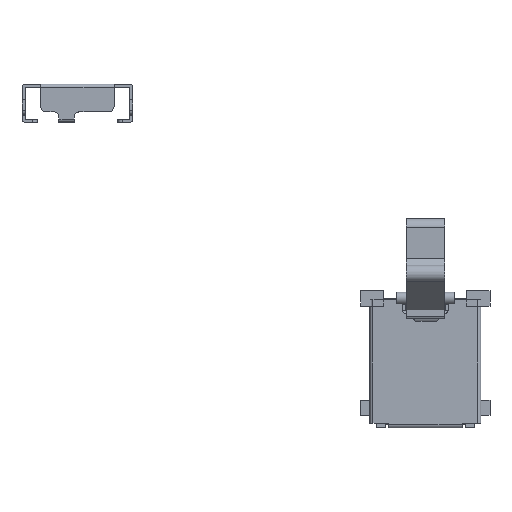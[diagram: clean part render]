
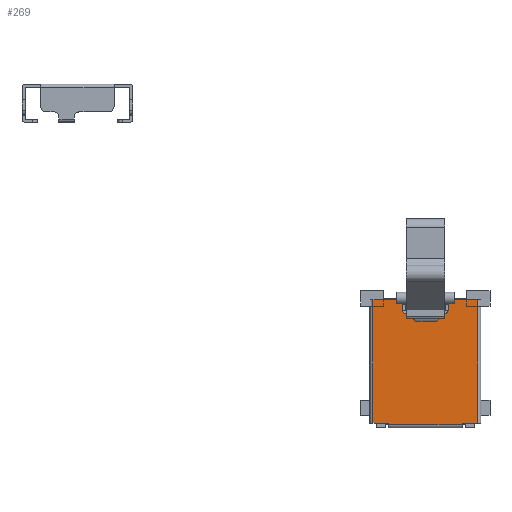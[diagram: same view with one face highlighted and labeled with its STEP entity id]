
A CAD part, top view. The second image highlights one B-rep face of the part: STEP entity #269.
In plain terms, the highlighted planar face has unit normal (0, 0, 1) as drawn and (0, 1, 0) by its records, which use the part's own axes.
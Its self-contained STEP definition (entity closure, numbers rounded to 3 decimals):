
#269 = ADVANCED_FACE( '', ( #663 ), #664, .F. );
#663 = FACE_OUTER_BOUND( '', #1220, .T. );
#664 = PLANE( '', #1221 );
#1220 = EDGE_LOOP( '', ( #1864, #1865, #1866, #1867, #1868, #1869, #1870, #1871, #1872, #1873, #1874, #1875, #1876, #1877, #1878, #1879, #1880, #1881, #1882, #1883 ) );
#1221 = AXIS2_PLACEMENT_3D( '', #1884, #1885, #1886 );
#1864 = ORIENTED_EDGE( '', *, *, #3433, .T. );
#1865 = ORIENTED_EDGE( '', *, *, #3434, .F. );
#1866 = ORIENTED_EDGE( '', *, *, #3435, .T. );
#1867 = ORIENTED_EDGE( '', *, *, #3436, .F. );
#1868 = ORIENTED_EDGE( '', *, *, #3437, .F. );
#1869 = ORIENTED_EDGE( '', *, *, #3438, .T. );
#1870 = ORIENTED_EDGE( '', *, *, #3439, .F. );
#1871 = ORIENTED_EDGE( '', *, *, #3440, .T. );
#1872 = ORIENTED_EDGE( '', *, *, #3441, .F. );
#1873 = ORIENTED_EDGE( '', *, *, #3442, .F. );
#1874 = ORIENTED_EDGE( '', *, *, #3443, .T. );
#1875 = ORIENTED_EDGE( '', *, *, #3444, .F. );
#1876 = ORIENTED_EDGE( '', *, *, #3445, .T. );
#1877 = ORIENTED_EDGE( '', *, *, #3446, .T. );
#1878 = ORIENTED_EDGE( '', *, *, #3447, .F. );
#1879 = ORIENTED_EDGE( '', *, *, #3448, .F. );
#1880 = ORIENTED_EDGE( '', *, *, #3449, .T. );
#1881 = ORIENTED_EDGE( '', *, *, #3450, .T. );
#1882 = ORIENTED_EDGE( '', *, *, #3451, .F. );
#1883 = ORIENTED_EDGE( '', *, *, #3452, .T. );
#1884 = CARTESIAN_POINT( '', ( -9.5, 6.948, 4. ) );
#1885 = DIRECTION( '', ( 0., -1., 0. ) );
#1886 = DIRECTION( '', ( 1., 0., 0. ) );
#3433 = EDGE_CURVE( '', #4153, #4154, #4155, .T. );
#3434 = EDGE_CURVE( '', #4156, #4154, #4157, .T. );
#3435 = EDGE_CURVE( '', #4156, #4158, #4159, .T. );
#3436 = EDGE_CURVE( '', #4160, #4158, #4161, .T. );
#3437 = EDGE_CURVE( '', #4162, #4160, #4163, .T. );
#3438 = EDGE_CURVE( '', #4162, #4164, #4165, .T. );
#3439 = EDGE_CURVE( '', #4166, #4164, #4167, .T. );
#3440 = EDGE_CURVE( '', #4166, #4168, #4169, .T. );
#3441 = EDGE_CURVE( '', #4170, #4168, #4171, .T. );
#3442 = EDGE_CURVE( '', #4172, #4170, #4173, .T. );
#3443 = EDGE_CURVE( '', #4172, #4174, #4175, .T. );
#3444 = EDGE_CURVE( '', #4176, #4174, #4177, .T. );
#3445 = EDGE_CURVE( '', #4176, #4178, #4179, .T. );
#3446 = EDGE_CURVE( '', #4178, #4180, #4181, .F. );
#3447 = EDGE_CURVE( '', #4182, #4180, #4183, .T. );
#3448 = EDGE_CURVE( '', #4184, #4182, #4185, .T. );
#3449 = EDGE_CURVE( '', #4184, #4186, #4187, .T. );
#3450 = EDGE_CURVE( '', #4186, #4188, #4189, .T. );
#3451 = EDGE_CURVE( '', #4190, #4188, #4191, .T. );
#3452 = EDGE_CURVE( '', #4190, #4153, #4192, .T. );
#4153 = VERTEX_POINT( '', #5233 );
#4154 = VERTEX_POINT( '', #5234 );
#4155 = LINE( '', #5235, #5236 );
#4156 = VERTEX_POINT( '', #5237 );
#4157 = LINE( '', #5238, #5239 );
#4158 = VERTEX_POINT( '', #5240 );
#4159 = CIRCLE( '', #5241, 0.15 );
#4160 = VERTEX_POINT( '', #5242 );
#4161 = LINE( '', #5243, #5244 );
#4162 = VERTEX_POINT( '', #5245 );
#4163 = LINE( '', #5246, #5247 );
#4164 = VERTEX_POINT( '', #5248 );
#4165 = CIRCLE( '', #5249, 0.1 );
#4166 = VERTEX_POINT( '', #5250 );
#4167 = LINE( '', #5251, #5252 );
#4168 = VERTEX_POINT( '', #5253 );
#4169 = CIRCLE( '', #5254, 0.1 );
#4170 = VERTEX_POINT( '', #5255 );
#4171 = LINE( '', #5256, #5257 );
#4172 = VERTEX_POINT( '', #5258 );
#4173 = LINE( '', #5259, #5260 );
#4174 = VERTEX_POINT( '', #5261 );
#4175 = CIRCLE( '', #5262, 0.15 );
#4176 = VERTEX_POINT( '', #5263 );
#4177 = LINE( '', #5264, #5265 );
#4178 = VERTEX_POINT( '', #5266 );
#4179 = LINE( '', #5267, #5268 );
#4180 = VERTEX_POINT( '', #5269 );
#4181 = LINE( '', #5270, #5271 );
#4182 = VERTEX_POINT( '', #5272 );
#4183 = LINE( '', #5273, #5274 );
#4184 = VERTEX_POINT( '', #5275 );
#4185 = LINE( '', #5276, #5277 );
#4186 = VERTEX_POINT( '', #5278 );
#4187 = LINE( '', #5279, #5280 );
#4188 = VERTEX_POINT( '', #5281 );
#4189 = LINE( '', #5282, #5283 );
#4190 = VERTEX_POINT( '', #5284 );
#4191 = LINE( '', #5285, #5286 );
#4192 = LINE( '', #5287, #5288 );
#5233 = CARTESIAN_POINT( '', ( -9.6, 6.948, 0. ) );
#5234 = CARTESIAN_POINT( '', ( -10.55, 6.948, 0. ) );
#5235 = CARTESIAN_POINT( '', ( -9.5, 6.948, 0. ) );
#5236 = VECTOR( '', #6455, 1000. );
#5237 = CARTESIAN_POINT( '', ( -10.55, 6.948, 0.3 ) );
#5238 = CARTESIAN_POINT( '', ( -10.55, 6.948, 0.45 ) );
#5239 = VECTOR( '', #6456, 1000. );
#5240 = CARTESIAN_POINT( '', ( -10.7, 6.948, 0.45 ) );
#5241 = AXIS2_PLACEMENT_3D( '', #6457, #6458, #6459 );
#5242 = CARTESIAN_POINT( '', ( -10.875, 6.948, 0.45 ) );
#5243 = CARTESIAN_POINT( '', ( -10.875, 6.948, 0.45 ) );
#5244 = VECTOR( '', #6460, 1000. );
#5245 = CARTESIAN_POINT( '', ( -10.875, 6.948, 0.6 ) );
#5246 = CARTESIAN_POINT( '', ( -10.875, 6.948, 0.7 ) );
#5247 = VECTOR( '', #6461, 1000. );
#5248 = CARTESIAN_POINT( '', ( -10.975, 6.948, 0.7 ) );
#5249 = AXIS2_PLACEMENT_3D( '', #6462, #6463, #6464 );
#5250 = CARTESIAN_POINT( '', ( -11.575, 6.948, 0.7 ) );
#5251 = CARTESIAN_POINT( '', ( -11.675, 6.948, 0.7 ) );
#5252 = VECTOR( '', #6465, 1000. );
#5253 = CARTESIAN_POINT( '', ( -11.675, 6.948, 0.6 ) );
#5254 = AXIS2_PLACEMENT_3D( '', #6466, #6467, #6468 );
#5255 = CARTESIAN_POINT( '', ( -11.675, 6.948, 0.45 ) );
#5256 = CARTESIAN_POINT( '', ( -11.675, 6.948, 0.45 ) );
#5257 = VECTOR( '', #6469, 1000. );
#5258 = CARTESIAN_POINT( '', ( -11.9, 6.948, 0.45 ) );
#5259 = CARTESIAN_POINT( '', ( -12.05, 6.948, 0.45 ) );
#5260 = VECTOR( '', #6470, 1000. );
#5261 = CARTESIAN_POINT( '', ( -12.05, 6.948, 0.3 ) );
#5262 = AXIS2_PLACEMENT_3D( '', #6471, #6472, #6473 );
#5263 = CARTESIAN_POINT( '', ( -12.05, 6.948, 0. ) );
#5264 = CARTESIAN_POINT( '', ( -12.05, 6.948, 0. ) );
#5265 = VECTOR( '', #6474, 1000. );
#5266 = CARTESIAN_POINT( '', ( -13., 6.948, 0. ) );
#5267 = CARTESIAN_POINT( '', ( -9.5, 6.948, 0. ) );
#5268 = VECTOR( '', #6475, 1000. );
#5269 = CARTESIAN_POINT( '', ( -13., 6.948, 4. ) );
#5270 = CARTESIAN_POINT( '', ( -13., 6.948, 4. ) );
#5271 = VECTOR( '', #6476, 1000. );
#5272 = CARTESIAN_POINT( '', ( -12.5, 6.948, 4. ) );
#5273 = CARTESIAN_POINT( '', ( -9.5, 6.948, 4. ) );
#5274 = VECTOR( '', #6477, 1000. );
#5275 = CARTESIAN_POINT( '', ( -12.5, 6.948, 4.05 ) );
#5276 = CARTESIAN_POINT( '', ( -12.5, 6.948, 4. ) );
#5277 = VECTOR( '', #6478, 1000. );
#5278 = CARTESIAN_POINT( '', ( -10.1, 6.948, 4.05 ) );
#5279 = CARTESIAN_POINT( '', ( -9.5, 6.948, 4.05 ) );
#5280 = VECTOR( '', #6479, 1000. );
#5281 = CARTESIAN_POINT( '', ( -10.1, 6.948, 4. ) );
#5282 = CARTESIAN_POINT( '', ( -10.1, 6.948, 4. ) );
#5283 = VECTOR( '', #6480, 1000. );
#5284 = CARTESIAN_POINT( '', ( -9.6, 6.948, 4. ) );
#5285 = CARTESIAN_POINT( '', ( -9.5, 6.948, 4. ) );
#5286 = VECTOR( '', #6481, 1000. );
#5287 = CARTESIAN_POINT( '', ( -9.6, 6.948, 4. ) );
#5288 = VECTOR( '', #6482, 1000. );
#6455 = DIRECTION( '', ( -1., 0., 0. ) );
#6456 = DIRECTION( '', ( 0., 0., -1. ) );
#6457 = CARTESIAN_POINT( '', ( -10.7, 6.948, 0.3 ) );
#6458 = DIRECTION( '', ( 0., -1., 0. ) );
#6459 = DIRECTION( '', ( 1., 0., 0. ) );
#6460 = DIRECTION( '', ( 1., 0., 0. ) );
#6461 = DIRECTION( '', ( 0., 0., -1. ) );
#6462 = CARTESIAN_POINT( '', ( -10.975, 6.948, 0.6 ) );
#6463 = DIRECTION( '', ( 0., -1., 0. ) );
#6464 = DIRECTION( '', ( 1., 0., 0. ) );
#6465 = DIRECTION( '', ( 1., 0., 0. ) );
#6466 = CARTESIAN_POINT( '', ( -11.575, 6.948, 0.6 ) );
#6467 = DIRECTION( '', ( 0., -1., 0. ) );
#6468 = DIRECTION( '', ( 1., 0., 0. ) );
#6469 = DIRECTION( '', ( 0., 0., 1. ) );
#6470 = DIRECTION( '', ( 1., 0., 0. ) );
#6471 = CARTESIAN_POINT( '', ( -11.9, 6.948, 0.3 ) );
#6472 = DIRECTION( '', ( 0., -1., 0. ) );
#6473 = DIRECTION( '', ( 1., 0., 0. ) );
#6474 = DIRECTION( '', ( 0., 0., 1. ) );
#6475 = DIRECTION( '', ( -1., 0., 0. ) );
#6476 = DIRECTION( '', ( 0., 0., -1. ) );
#6477 = DIRECTION( '', ( -1., 0., 0. ) );
#6478 = DIRECTION( '', ( 0., 0., -1. ) );
#6479 = DIRECTION( '', ( 1., 0., 0. ) );
#6480 = DIRECTION( '', ( 0., 0., -1. ) );
#6481 = DIRECTION( '', ( -1., 0., 0. ) );
#6482 = DIRECTION( '', ( 0., 0., -1. ) );
